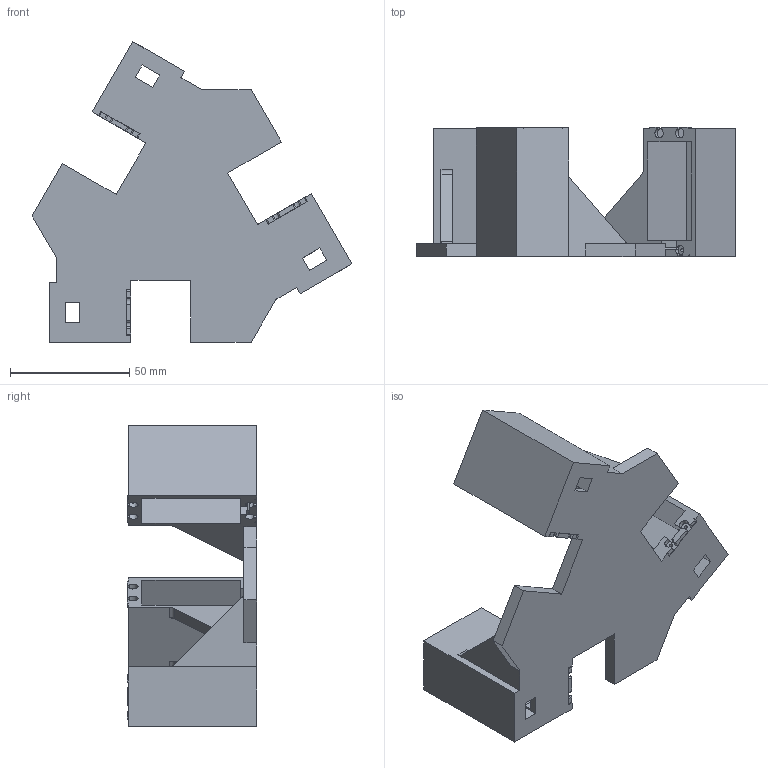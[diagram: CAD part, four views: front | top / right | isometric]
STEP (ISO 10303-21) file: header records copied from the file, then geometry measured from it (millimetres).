
FILE_DESCRIPTION(/* description */ (''),/* implementation_level */ '2;1');
FILE_NAME(/* name */ 'upperbase1.step',/* time_stamp */ '2026-11-16T17:44:31+07:00',/* author */ (''),/* organization */ (''),/* preprocessor_version */ 'ST-DEVELOPER v20.2',/* originating_system */ 'Autodesk Translation Framework v15.17.0.0',/* authorisation */ '');
FILE_SCHEMA (('AUTOMOTIVE_DESIGN { 1 0 10303 214 3 1 1 }'));
Length unit declared in the file: millimetre
Products named in the file (1): 2026-11-10-22-08-36-572
Bounding box: 133.97 x 54.25 x 126.07 mm (x, y, z)
Volume: 87418.8 mm3; surface area: 54286.8 mm2
Topology: 1 solids, 1 shells, 256 faces, 777 edges, 518 vertices
Faces by surface type: plane 172, cylinder 84
Full cylindrical faces by diameter (mm): 1.4 x6
Entity records: 8769 total; most frequent: CARTESIAN_POINT 1564, ORIENTED_EDGE 1554, DIRECTION 1464, EDGE_CURVE 777, LINE 600, VECTOR 600, VERTEX_POINT 518, AXIS2_PLACEMENT_3D 432
